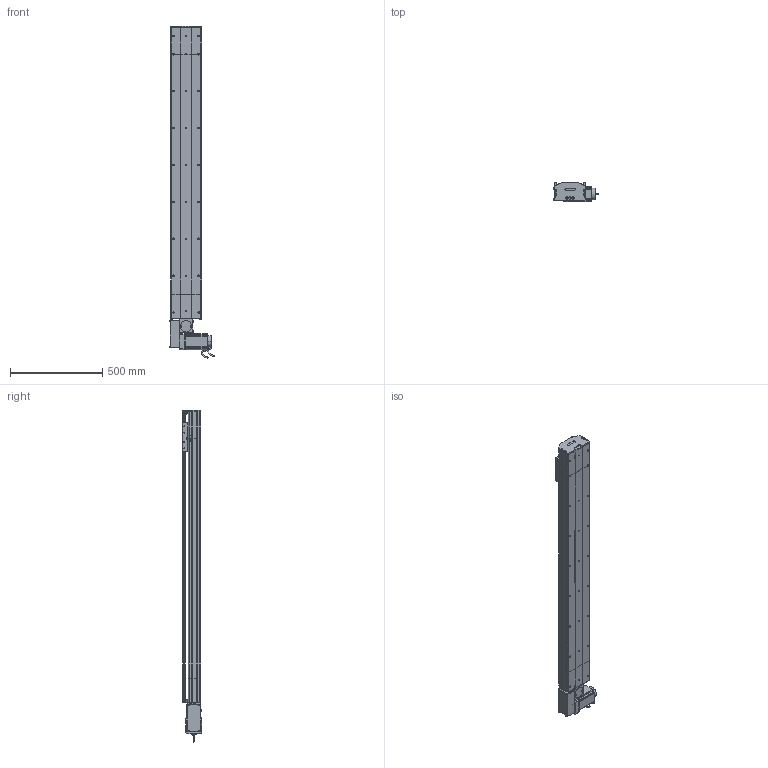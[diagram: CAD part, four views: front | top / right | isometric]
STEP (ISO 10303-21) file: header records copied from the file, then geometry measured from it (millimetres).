
FILE_DESCRIPTION (( 'STEP AP214' ), '1' );
FILE_NAME ('D17 TBH RH S1300.STEP', '2010-06-30T07:59:16', ( 'Christophe Gaillard' ), ( 'SGA' ), 'SwSTEP 2.0', 'SolidWorks 2010', '' );
FILE_SCHEMA (( 'AUTOMOTIVE_DESIGN' ));
Length unit declared in the file: millimetre
Products named in the file (40): Head RH D17B_Default; plaque de  bout head D17B RH_Default; poulie tail_Default; couvercle D17B head_Default; corpl head D17 _Default; couvercle D17B_Default; corp tail D17B+100_Default; Tail D17B+100_Default; Renvoi RH_Default; plaque de  bout tail D17B_Default; Rail D17B; tete d''axe poulie D17B; cache arbre D17_Default; Vis M5 L16-2_Default; vis M5 L16_Default; Plaque racord D17_Default; Couroie tail D17B_Default; vis M5 L70_Default; Conecteur_Default; Arbre+rail head D17B; codeur 90BLDC125-640; corps 90BLDC125A-640; avant 90BLDC125A-640; Conecteur2_Default; Moteur motionking 90BLDC125A-640; vis M5 L5_Default; cache D17_Default; couroie head D17_Default; poulie head_Default; vis M5 L12_Default; guide D17; Chariot D17; vis M5 L25_Default; vis M5 L8 90°_Default; chariot D17S_Default; course 1300 D17B_Default; D17 TBH RH S1300; couvercle D17B course L1300_Default; corp D17B 1300_Default; Couroie+ rail D17 Course 1300 
Assembly tree (70 placements, depth 4):
  D17 TBH RH S1300
    chariot D17S_Default
      vis M5 L12_Default  x4
      guide D17  x2
      Chariot D17
    Head RH D17B_Default
      vis M5 L12_Default  x8
      vis M5 L25_Default  x2
      vis M5 L5_Default  x4
      corpl head D17 _Default
      vis M5 L70_Default  x4
      plaque de  bout head D17B RH_Default
      Vis M5 L16-2_Default  x4
      vis M5 L16_Default  x2
      Arbre+rail head D17B
      poulie head_Default
      cache D17_Default  x2
      Plaque racord D17_Default
      couroie head D17_Default
      Moteur motionking 90BLDC125A-640
        corps 90BLDC125A-640
        avant 90BLDC125A-640
        Conecteur_Default
        Conecteur2_Default
        codeur 90BLDC125-640
      couvercle D17B head_Default
      Renvoi RH_Default
      cache arbre D17_Default
    Tail D17B+100_Default
      vis M5 L12_Default  x4
      couvercle D17B_Default
      vis M5 L25_Default  x2
      corp tail D17B+100_Default
      plaque de  bout tail D17B_Default
      Rail D17B
      vis M5 L8 90°_Default  x2
      poulie tail_Default
      Couroie tail D17B_Default
      tete d''axe poulie D17B
    course 1300 D17B_Default
      corp D17B 1300_Default
      Couroie+ rail D17 Course 1300 
      couvercle D17B course L1300_Default
Bounding box: 245.2 x 105.65 x 1800.95 mm (x, y, z)
Volume: 10666029.1 mm3; surface area: 3004912.4 mm2
Topology: 94 solids, 94 shells, 2681 faces, 6751 edges, 4346 vertices
Faces by surface type: plane 1611, cylinder 757, bspline 136, cone 88, torus 85, sphere 4
Entity records: 83962 total; most frequent: CARTESIAN_POINT 24835, ORIENTED_EDGE 10274, DIRECTION 9750, EDGE_CURVE 5137, LINE 3440, VECTOR 3440, VERTEX_POINT 3370, AXIS2_PLACEMENT_3D 3155
